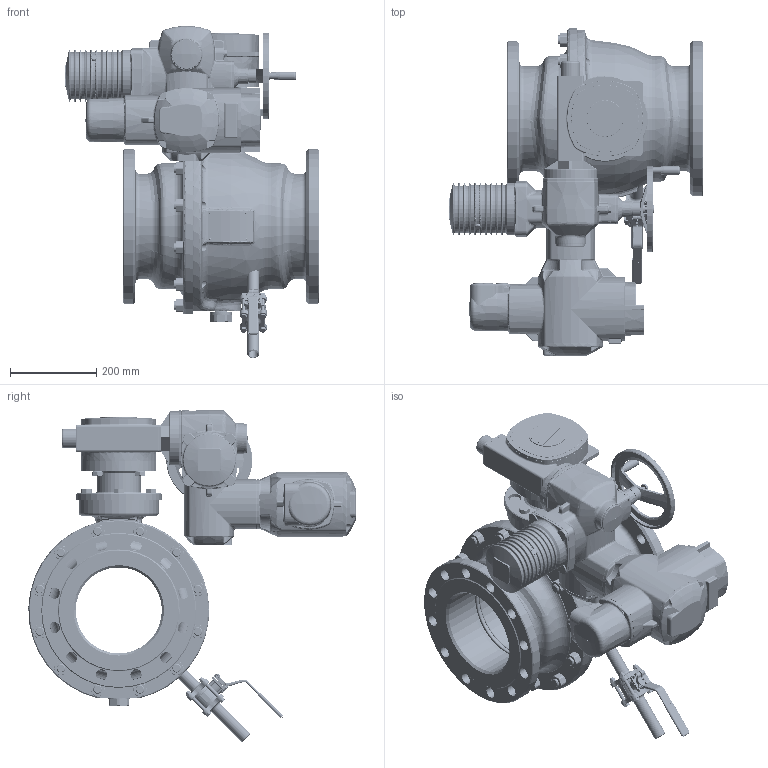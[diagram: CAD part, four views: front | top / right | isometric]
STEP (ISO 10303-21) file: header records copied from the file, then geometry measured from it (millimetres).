
FILE_DESCRIPTION((''),'2;1');
FILE_NAME('250_ASM','2017-01-17T',('schwaba'),('RAND'),'PRO/ENGINEER BY PARAMETRIC TECHNOLOGY CORPORATION, 2016100','PRO/ENGINEER BY PARAMETRIC TECHNOLOGY CORPORATION, 2016100','');
FILE_SCHEMA(('CONFIG_CONTROL_DESIGN'));
Products named in the file (3): KHI_200_PN25_FR_WE_ENTL_O_IT; GS80_F14_SA10_AM_ZWSTK_DN200; 250_ASM
Assembly tree (2 placements, depth 2):
  250_ASM
    KHI_200_PN25_FR_WE_ENTL_O_IT
    GS80_F14_SA10_AM_ZWSTK_DN200
Bounding box: 591.5 x 759.98 x 770.91 mm (x, y, z)
Volume: 37505842.8 mm3; surface area: 3228597.8 mm2
Topology: 3 solids, 11 shells, 6163 faces, 14974 edges, 8998 vertices
Faces by surface type: plane 1936, cylinder 1348, bspline 1286, cone 740, torus 724, sphere 127, extrusion 2
Entity records: 370630 total; most frequent: CARTESIAN_POINT 234762, ORIENTED_EDGE 29832, DIRECTION 26719, EDGE_CURVE 14916, AXIS2_PLACEMENT_3D 10467, VERTEX_POINT 8998, EDGE_LOOP 6522, FACE_OUTER_BOUND 6163
